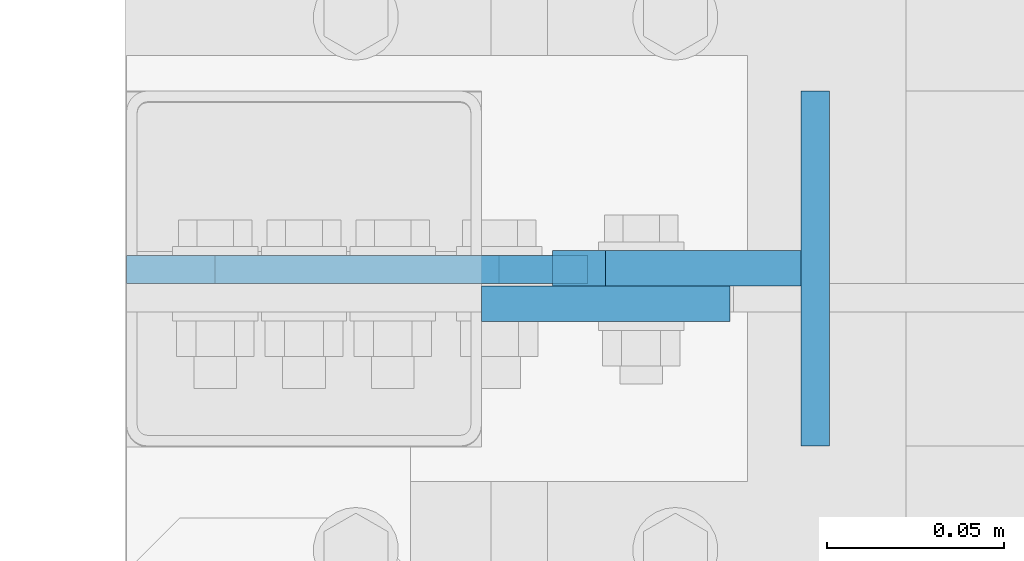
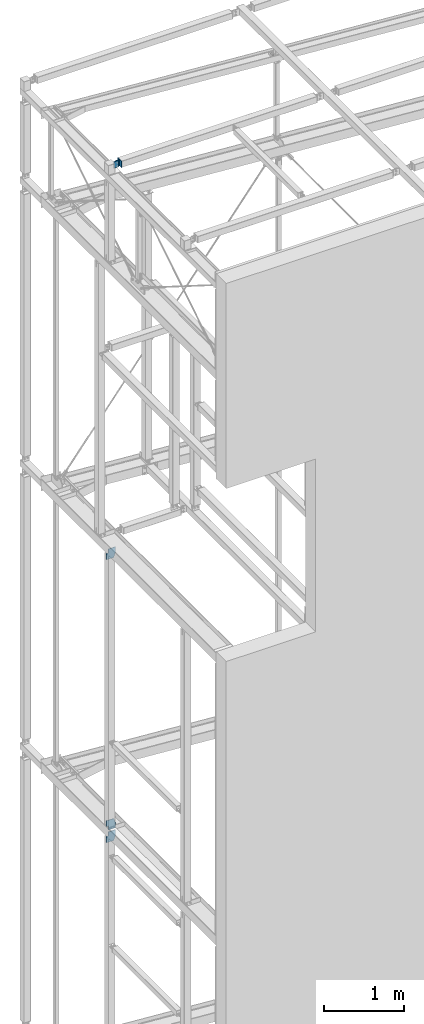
# One storey, part 113 of 271: 6 plates, 4 elements without a shape of their own.
"""IFC2X3 building model written with IfcOpenShell, lengths in millimetres."""

from ifc_helpers import new_model, si_unit, frame, origin_with_axes, place, context, subcontext, project, spatial, polyline, outline, extrude, material, type_object, element, aggregate, save


model = new_model("IFC2X3")

# Units and contexts
model_context = context("Model", 3, precision=1e-05, world=origin_with_axes())
body_context = subcontext(model_context, "Body", "Model", "MODEL_VIEW")
ifc_project = project(units=[si_unit("LENGTHUNIT", "METRE", prefix="MILLI"), si_unit("AREAUNIT", "SQUARE_METRE"), si_unit("VOLUMEUNIT", "CUBIC_METRE"), si_unit("MASSUNIT", "GRAM", prefix="KILO"), si_unit("TIMEUNIT", "SECOND"), si_unit("PLANEANGLEUNIT", "RADIAN"), si_unit("SOLIDANGLEUNIT", "STERADIAN"), si_unit("THERMODYNAMICTEMPERATUREUNIT", "DEGREE_CELSIUS"), si_unit("LUMINOUSINTENSITYUNIT", "LUMEN")], contexts=[model_context])

# Site, building, storey
site_placement = place(None, origin_with_axes())
site = spatial("IfcSite", under=ifc_project, at=site_placement, Name="Undefined", CompositionType="ELEMENT")
building_placement = place(site_placement, origin_with_axes())
building = spatial("IfcBuilding", under=site, at=building_placement, Name="Undefined", CompositionType="ELEMENT")
storey_placement = place(building_placement, origin_with_axes())
storey = spatial("IfcBuildingStorey", under=building, at=storey_placement, Name="Undefined", CompositionType="ELEMENT", Elevation=0.0)

# Assembly, plates
assembly_1_placement = place(storey_placement, origin_with_axes())
assembly_1 = element("IfcElementAssembly", 1, at=assembly_1_placement, inside=storey, AssemblyPlace="NOTDEFINED", PredefinedType="RIGID_FRAME")
ifc_material = material(Name="STEEL/S355JR")
plate_type_1 = type_object("IfcPlateType", Name="BL8*100", PredefinedType="NOTDEFINED")
plate_1_placement = place(assembly_1_placement, frame((182.375687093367, 2749.32498425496, 20104.3499999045), z_axis=(-1.0, 0.0, 1.38777878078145e-17), x_axis=(0.0, 0.0, 1.0)))
plate_1 = element("IfcPlate", 2, at=plate_1_placement, type_object=plate_type_1, material=ifc_material, Name="BLACHA", ObjectType="BL8*100", context=body_context, shape_type="SweptSolid", body=[
    extrude(outline(polyline([(0.0, 0.0), (100.0, 0.0), (100.0, 100.0), (1.59161572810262e-12, 100.0), (0.0, 0.0)])), frame((0.0, 0.0, -4.0), z_axis=(0.0, 0.0, 1.0), x_axis=(1.0, 0.0, 0.0)), (0.0, 0.0, 1.0), 8.0),
])
plate_type_2 = type_object("IfcPlateType", Name="BL10*70", PredefinedType="NOTDEFINED")
plate_2_placement = place(assembly_1_placement, frame((123.375687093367, 2799.32498425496, 20104.3499999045), z_axis=(0.0, 1.0, 0.0), x_axis=(-0.707106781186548, 0.0, 0.707106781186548)))
plate_2 = element("IfcPlate", 3, at=plate_2_placement, type_object=plate_type_2, material=ifc_material, Name="BLACHA", ObjectType="BL10*70", context=body_context, shape_type="SweptSolid", body=[
    extrude(outline(polyline([(0.0, 0.0), (21.2132034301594, 1.09139364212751e-11), (70.7106781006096, 49.4974746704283), (70.7106781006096, 70.7106781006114), (31.8198051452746, 109.601554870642), (-38.890872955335, 38.8908729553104), (0.0, 0.0)])), frame((0.0, 0.0, -5.0), z_axis=(0.0, 0.0, 1.0), x_axis=(1.0, 0.0, 0.0)), (0.0, 0.0, 1.0), 10.0),
])
aggregate(assembly_1, [plate_1, plate_2])

# Assembly, plate
assembly_2_placement = place(storey_placement, origin_with_axes())
assembly_2 = element("IfcElementAssembly", 4, at=assembly_2_placement, inside=storey, AssemblyPlace="NOTDEFINED", PredefinedType="RIGID_FRAME")
plate_3_placement = place(assembly_2_placement, frame((88.3756870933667, 2789.32498425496, 20104.3499999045), z_axis=(0.0, 1.0, 0.0), x_axis=(0.0, 0.0, 1.0)))
plate_3 = element("IfcPlate", 5, at=plate_3_placement, type_object=plate_type_2, material=ifc_material, Name="BLACHA", ObjectType="BL10*70", context=body_context, shape_type="SweptSolid", body=[
    extrude(outline(polyline([(0.0, 0.0), (100.0, 0.0), (100.0, 70.0), (0.0, 70.0), (0.0, 0.0)])), frame((0.0, 0.0, -5.0), z_axis=(0.0, 0.0, 1.0), x_axis=(1.0, 0.0, 0.0)), (0.0, 0.0, 1.0), 10.0),
])
aggregate(assembly_2, [plate_3])

assembly_3_placement = place(storey_placement, origin_with_axes())
assembly_3 = element("IfcElementAssembly", 6, at=assembly_3_placement, inside=storey, AssemblyPlace="NOTDEFINED", PredefinedType="RIGID_FRAME")
plate_type_3 = type_object("IfcPlateType", Name="BL8*130", PredefinedType="NOTDEFINED")
plate_4_placement = place(assembly_3_placement, frame((118.375687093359, 2799.05211980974, 14156.8499999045), z_axis=(0.0, -1.0, 0.0), x_axis=(0.0, 0.0, 1.0)))
plate_4 = element("IfcPlate", 7, at=plate_4_placement, type_object=plate_type_3, material=ifc_material, Name="BLACHA", ObjectType="BL8*130", context=body_context, shape_type="SweptSolid", body=[
    extrude(outline(polyline([(0.0, 25.0), (70.0, -8.66862137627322e-13), (155.0, -2.06057393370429e-12), (155.0, 105.0), (94.9999999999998, 105.0), (94.9999999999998, 130.0), (-3.5527136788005e-14, 130.0), (0.0, 25.0)])), frame((0.0, 0.0, -4.0), z_axis=(0.0, 0.0, 1.0), x_axis=(1.0, 0.0, 0.0)), (0.0, 0.0, 1.0), 8.0),
])

assembly_4_placement = place(storey_placement, origin_with_axes())
assembly_4 = element("IfcElementAssembly", 8, at=assembly_4_placement, inside=storey, AssemblyPlace="NOTDEFINED", PredefinedType="RIGID_FRAME")
plate_5_placement = place(assembly_4_placement, frame((118.375687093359, 2799.05211980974, 9836.8499999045), z_axis=(0.0, -1.0, 0.0), x_axis=(0.0, 0.0, 1.0)))
plate_5 = element("IfcPlate", 9, at=plate_5_placement, type_object=plate_type_3, material=ifc_material, Name="BLACHA", ObjectType="BL8*130", context=body_context, shape_type="SweptSolid", body=[
    extrude(outline(polyline([(0.0, 25.0), (70.0, -8.66862137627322e-13), (155.0, -2.06057393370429e-12), (155.0, 105.0), (94.9999999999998, 105.0), (94.9999999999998, 130.0), (-3.5527136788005e-14, 130.0), (0.0, 25.0)])), frame((0.0, 0.0, -4.0), z_axis=(0.0, 0.0, 1.0), x_axis=(1.0, 0.0, 0.0)), (0.0, 0.0, 1.0), 8.0),
])
aggregate(assembly_4, [plate_5])

# Plate
plate_6_placement = place(assembly_3_placement, frame((118.375687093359, 2799.05211980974, 10171.8499999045), z_axis=(0.0, 1.0, 0.0), x_axis=(0.0, 0.0, -1.0)))
plate_6 = element("IfcPlate", 10, at=plate_6_placement, type_object=plate_type_3, material=ifc_material, Name="BLACHA", ObjectType="BL8*130", context=body_context, shape_type="SweptSolid", body=[
    extrude(outline(polyline([(0.0, 25.0), (70.0, -8.66862137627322e-13), (150.0, -1.68398628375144e-12), (150.0, 105.0), (90.0, 105.0), (90.0, 130.0), (-3.5527136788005e-14, 130.0), (0.0, 25.0)])), frame((0.0, 0.0, -4.0), z_axis=(0.0, 0.0, 1.0), x_axis=(1.0, 0.0, 0.0)), (0.0, 0.0, 1.0), 8.0),
])

aggregate(assembly_3, [plate_4, plate_6])

save(model, "model.ifc")
